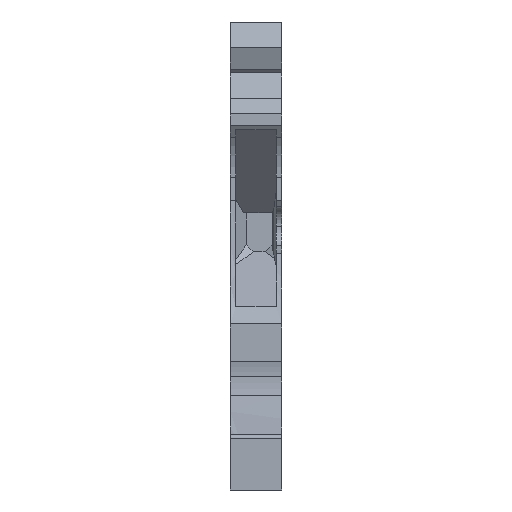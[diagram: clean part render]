
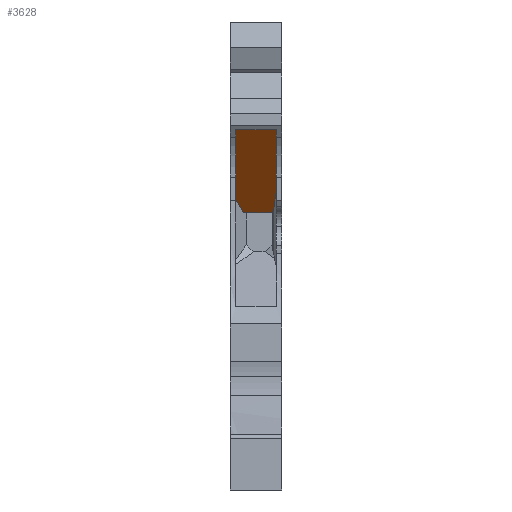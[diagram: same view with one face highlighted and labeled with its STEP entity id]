
A CAD part, front view. The second image highlights one B-rep face of the part: STEP entity #3628.
In plain terms, the highlighted planar face has unit normal (0, -0.715, -0.699).
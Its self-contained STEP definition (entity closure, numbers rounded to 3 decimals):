
#3277=CARTESIAN_POINT('',(4.6,2.485,36.066));
#3278=VERTEX_POINT('',#3277);
#3285=CARTESIAN_POINT('',(4.6,8.5,29.911));
#3286=VERTEX_POINT('',#3285);
#3287=CARTESIAN_POINT('',(4.6,8.5,29.911));
#3288=DIRECTION('',(0.,-0.699,0.715));
#3289=VECTOR('',#3288,8.606);
#3290=LINE('',#3287,#3289);
#3291=EDGE_CURVE('',#3286,#3278,#3290,.T.);
#3338=CARTESIAN_POINT('',(0.55,2.485,36.066));
#3339=VERTEX_POINT('',#3338);
#3346=CARTESIAN_POINT('',(0.55,2.485,36.066));
#3347=DIRECTION('',(1.,0.,0.));
#3348=VECTOR('',#3347,4.05);
#3349=LINE('',#3346,#3348);
#3350=EDGE_CURVE('',#3339,#3278,#3349,.T.);
#3404=CARTESIAN_POINT('',(0.55,9.256,29.137));
#3405=VERTEX_POINT('',#3404);
#3412=CARTESIAN_POINT('',(0.55,2.485,36.066));
#3413=DIRECTION('',(-0.,0.699,-0.715));
#3414=VECTOR('',#3413,9.689);
#3415=LINE('',#3412,#3414);
#3416=EDGE_CURVE('',#3339,#3405,#3415,.T.);
#3579=CARTESIAN_POINT('',(1.333,10.612,27.75));
#3580=VERTEX_POINT('',#3579);
#3587=CARTESIAN_POINT('',(0.55,9.256,29.137));
#3588=CARTESIAN_POINT('',(1.333,10.612,27.75));
#3589=B_SPLINE_CURVE_WITH_KNOTS('',1,(#3587,#3588),.UNSPECIFIED.,.F.,.F.,(2,2),(0.,2.092),.UNSPECIFIED.);
#3590=EDGE_CURVE('',#3405,#3580,#3589,.T.);
#3597=CARTESIAN_POINT('',(6.259,10.25,28.12));
#3598=DIRECTION('',(-0.,0.715,0.699));
#3599=DIRECTION('',(-1.,-0.,-0.));
#3600=AXIS2_PLACEMENT_3D('',#3597,#3598,#3599);
#3601=PLANE('',#3600);
#3602=ORIENTED_EDGE('',*,*,#3350,.F.);
#3603=ORIENTED_EDGE('',*,*,#3416,.T.);
#3604=ORIENTED_EDGE('',*,*,#3590,.T.);
#3605=CARTESIAN_POINT('',(4.214,10.612,27.75));
#3606=VERTEX_POINT('',#3605);
#3607=CARTESIAN_POINT('',(4.214,10.612,27.75));
#3608=DIRECTION('',(-1.,-0.,-0.));
#3609=VECTOR('',#3608,2.882);
#3610=LINE('',#3607,#3609);
#3611=EDGE_CURVE('',#3606,#3580,#3610,.T.);
#3612=ORIENTED_EDGE('',*,*,#3611,.F.);
#3613=CARTESIAN_POINT('',(4.4,10.123,28.251));
#3614=VERTEX_POINT('',#3613);
#3615=CARTESIAN_POINT('',(4.214,10.612,27.75));
#3616=CARTESIAN_POINT('',(4.4,10.123,28.251));
#3617=B_SPLINE_CURVE_WITH_KNOTS('',1,(#3615,#3616),.UNSPECIFIED.,.F.,.F.,(2,2),(0.,0.725),.UNSPECIFIED.);
#3618=EDGE_CURVE('',#3606,#3614,#3617,.T.);
#3619=ORIENTED_EDGE('',*,*,#3618,.T.);
#3620=CARTESIAN_POINT('',(4.4,10.123,28.251));
#3621=CARTESIAN_POINT('',(4.6,8.5,29.911));
#3622=B_SPLINE_CURVE_WITH_KNOTS('',1,(#3620,#3621),.UNSPECIFIED.,.F.,.F.,(2,2),(0.,2.33),.UNSPECIFIED.);
#3623=EDGE_CURVE('',#3614,#3286,#3622,.T.);
#3624=ORIENTED_EDGE('',*,*,#3623,.T.);
#3625=ORIENTED_EDGE('',*,*,#3291,.T.);
#3626=EDGE_LOOP('',(#3602,#3603,#3604,#3612,#3619,#3624,#3625));
#3627=FACE_BOUND('',#3626,.T.);
#3628=ADVANCED_FACE('',(#3627),#3601,.F.);
